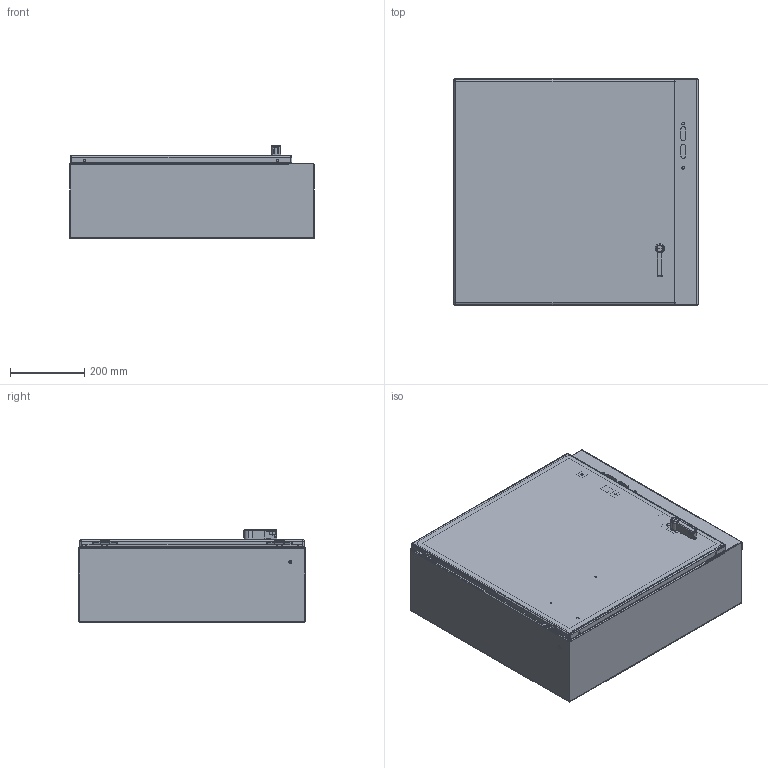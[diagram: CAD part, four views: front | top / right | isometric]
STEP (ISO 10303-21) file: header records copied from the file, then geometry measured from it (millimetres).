
FILE_DESCRIPTION (( 'STEP AP203' ), '1' );
FILE_NAME ('77980.step', '2014-10-10T08:35:08', ( 'admin' ), ( '' ), 'SwSTEP 2.0', 'SolidWorks 2010', '' );
FILE_SCHEMA (( 'CONFIG_CONTROL_DESIGN' ));
Products named in the file (31): 77980; 89082725; 87756321; 23271001_After Weld; 87543027; 89076399; 89076193; 89056623; 87938391_assy; 87938414_fip; 87938371; 99401225; 87931362_87931362; 23101001; 87415910_Locked; 64157001_Locked; 87540678; 64210001; 64208001; 64205001; 87541995; 87541994_Installed Height; 64206003; 64207001; 64103001; 99411834; 64212002; 64144001; 87938431; 87784879_CWHPTO; 79410_LOCKED
Assembly tree (40 placements, depth 5):
  77980
    89082725
      23271001_After Weld  x4
      99401225
      87756321
    89076399  x2
      89056623
      89076193
    87543027  x2
    87784879_CWHPTO
      79410_LOCKED
    87938391_assy
      87938431
      87938414_fip
        87938371
        99401225
        87931362_87931362  x2
        23101001
      87415910_Locked
        64157001_Locked
          87541995
          64205001  x2
          87541994_Installed Height
          87540678
          64208001
          64210001
        64103001  x2
        99411834  x2
        64212002
        64144001
        64206003
        64207001
Bounding box: 659.13 x 609.6 x 251.76 mm (x, y, z)
Volume: 2420772.2 mm3; surface area: 3015755.5 mm2
Topology: 36 solids, 36 shells, 2635 faces, 6810 edges, 4266 vertices
Faces by surface type: plane 1259, cylinder 720, bspline 438, torus 135, cone 51, sphere 32
Entity records: 80001 total; most frequent: CARTESIAN_POINT 30383, ORIENTED_EDGE 10118, DIRECTION 8672, EDGE_CURVE 5059, VERTEX_POINT 3192, VECTOR 2922, LINE 2922, AXIS2_PLACEMENT_3D 2875
